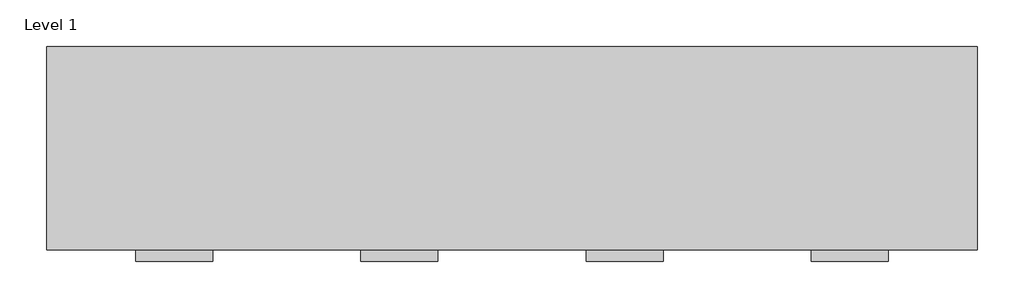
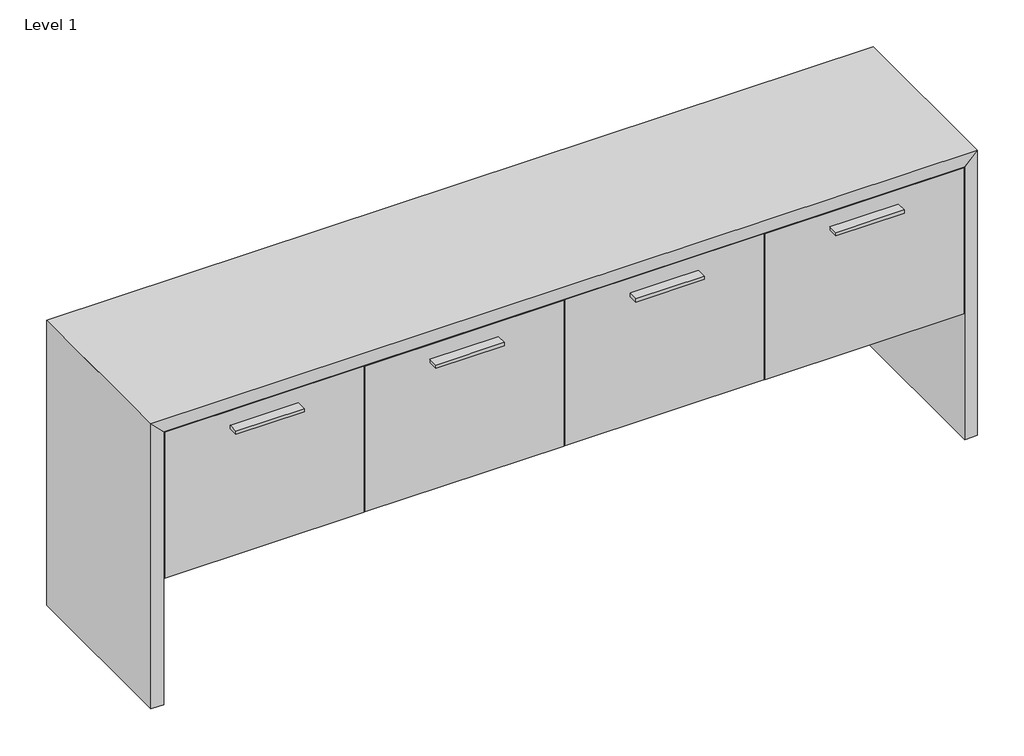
# One storey: 5 proxies.
"""IFC4 building model written with IfcOpenShell, lengths in millimetres."""

from ifc_helpers import new_model, si_unit, origin, place, context, project, spatial, transform, mapped, element, save
from components import generic_models_9caf6cdd, generic_models_cdf38a76

model = new_model("IFC4")

# Units and contexts
model_context = context("Model", 3, world=origin())
ifc_project = project(units=[si_unit("LENGTHUNIT", "METRE", prefix="MILLI")], contexts=[model_context])

# Site, building, storey
site = spatial("IfcSite", under=ifc_project)
building = spatial("IfcBuilding", under=site)
storey = spatial("IfcBuildingStorey", under=building, Name="Level 1", Elevation=0.0)

# Proxies
placement = place(None, origin())
generic_models_shape = generic_models_9caf6cdd(model_context)
element("IfcBuildingElementProxy", 1, Name="SCHWINN-BAR PULL 2334.192", ObjectType="SCHWINN-BAR PULL 2334.192", at=placement, inside=storey, context=model_context, shape_type="MappedRepresentation", body=[
    mapped(generic_models_shape, transform((1370.3148437, -508.0, 792.71875), x_axis=(1.0, 0.0, 0.0), y_axis=(0.0, 0.0, 1.0), z_axis=(0.0, -1.0, 0.0))),
])
element("IfcBuildingElementProxy", 2, Name="SCHWINN-BAR PULL 2334.192", ObjectType="SCHWINN-BAR PULL 2334.192", at=placement, inside=storey, context=model_context, shape_type="MappedRepresentation", body=[
    mapped(generic_models_shape, transform((780.3601563, -508.0, 792.71875), x_axis=(1.0, 0.0, 0.0), y_axis=(0.0, 0.0, 1.0), z_axis=(0.0, -1.0, 0.0))),
])
element("IfcBuildingElementProxy", 3, Name="SCHWINN-BAR PULL 2334.192", ObjectType="SCHWINN-BAR PULL 2334.192", at=placement, inside=storey, context=model_context, shape_type="MappedRepresentation", body=[
    mapped(generic_models_shape, transform((190.4054687, -508.0, 792.71875), x_axis=(1.0, 0.0, 0.0), y_axis=(0.0, 0.0, 1.0), z_axis=(0.0, -1.0, 0.0))),
])
element("IfcBuildingElementProxy", 4, Name="SCHWINN-BAR PULL 2334.192", ObjectType="SCHWINN-BAR PULL 2334.192", at=placement, inside=storey, context=model_context, shape_type="MappedRepresentation", body=[
    mapped(generic_models_shape, transform((1960.2695312, -508.0, 792.71875), x_axis=(1.0, 0.0, 0.0), y_axis=(0.0, 0.0, 1.0), z_axis=(0.0, -1.0, 0.0))),
])
generic_models_2_shape = generic_models_cdf38a76(model_context)
element("IfcBuildingElementProxy", 5, Name="FOUNDATION^RAISED STORAGE CREDENZA_35x96 4 DOOR-PARTS SOLID", ObjectType="FOUNDATION^RAISED STORAGE CREDENZA_35x96 4 DOOR-PARTS SOLID", at=placement, inside=storey, context=model_context, shape_type="MappedRepresentation", body=[
    mapped(generic_models_2_shape, transform((0.0, 0.0, 0.0), x_axis=(1.0, 0.0, 0.0), y_axis=(0.0, 0.0, 1.0), z_axis=(0.0, -1.0, 0.0))),
])

save(model, "model.ifc")
